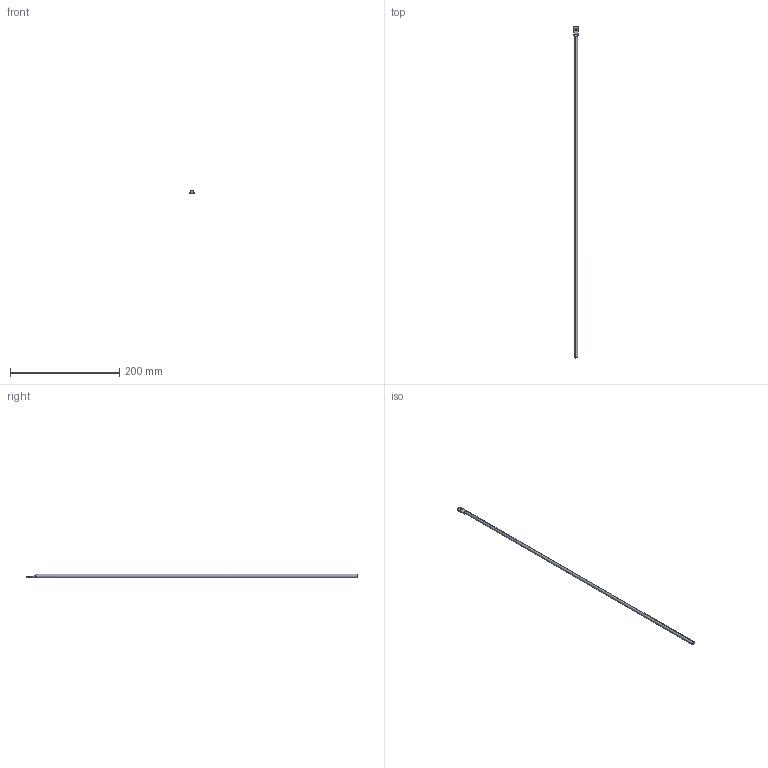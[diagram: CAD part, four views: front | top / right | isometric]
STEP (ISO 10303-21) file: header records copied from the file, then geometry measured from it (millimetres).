
FILE_DESCRIPTION (( 'STEP AP203' ), '1' );
FILE_NAME ('EB-150-6-600.STEP', '2013-07-29T04:22:02', ( 'SDS' ), ( 'SDS' ), 'SwSTEP 2.0', 'SolidWorks 2002296', '' );
FILE_SCHEMA (( 'CONFIG_CONTROL_DESIGN' ));
Length unit declared in the file: millimetre
Products named in the file (1): EB-150-6-600
Bounding box: 8.43 x 606.83 x 6 mm (x, y, z)
Volume: 17044.3 mm3; surface area: 11568.8 mm2
Topology: 1 solids, 1 shells, 24 faces, 62 edges, 38 vertices
Faces by surface type: cylinder 13, plane 5, bspline 4, torus 2
Entity records: 2255 total; most frequent: CARTESIAN_POINT 1597, DIRECTION 126, ORIENTED_EDGE 120, EDGE_CURVE 60, AXIS2_PLACEMENT_3D 53, VERTEX_POINT 38, CIRCLE 32, EDGE_LOOP 26
